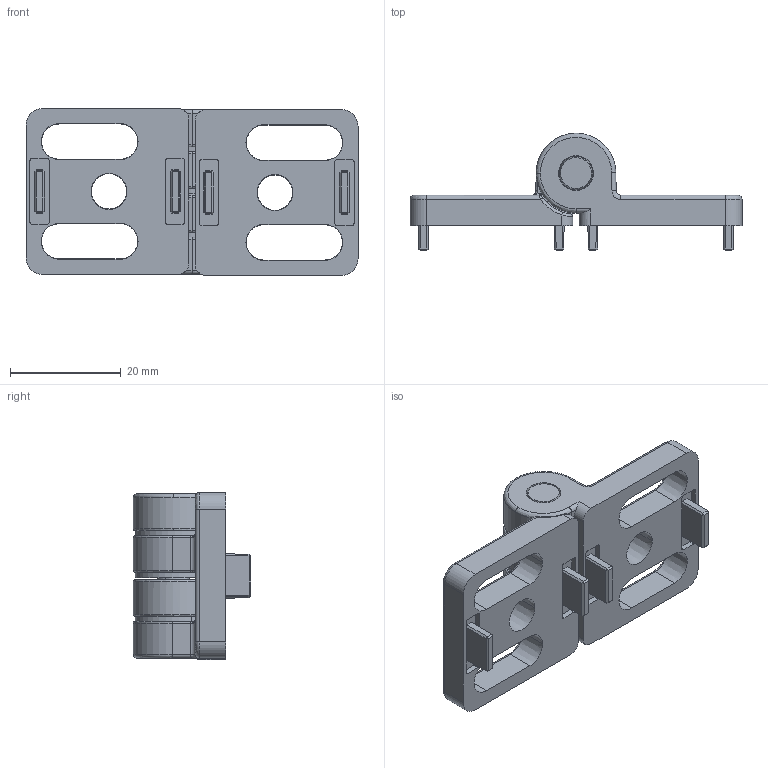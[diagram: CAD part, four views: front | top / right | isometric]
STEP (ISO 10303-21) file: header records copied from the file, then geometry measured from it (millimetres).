
FILE_DESCRIPTION (( 'STEP AP203' ), '1' );
FILE_NAME ('402046_Scharnier ZN 30x60 Nut 8 (Langloch).step', '2022-05-18T09:09:58', ( '' ), ( '' ), 'SwSTEP 2.0', 'SolidWorks 2021', '' );
FILE_SCHEMA (( 'CONFIG_CONTROL_DESIGN' ));
Length unit declared in the file: millimetre
Products named in the file (4): 402046 Scheibe; 402046 Achse; 402046 Scharnierlappen; 402046_Scharnier ZN 30x60 Nut 8 (Langloch)
Assembly tree (6 placements, depth 2):
  402046_Scharnier ZN 30x60 Nut 8 (Langloch)
    402046 Scharnierlappen  x2
    402046 Scheibe  x3
    402046 Achse
Bounding box: 60 x 21.2 x 30.2 mm (x, y, z)
Volume: 11089.6 mm3; surface area: 9063 mm2
Topology: 6 solids, 6 shells, 328 faces, 780 edges, 464 vertices
Faces by surface type: plane 130, cylinder 82, bspline 72, cone 44
Entity records: 6489 total; most frequent: CARTESIAN_POINT 2233, ORIENTED_EDGE 798, DIRECTION 775, EDGE_CURVE 399, AXIS2_PLACEMENT_3D 284, VERTEX_POINT 238, LINE 207, VECTOR 207
